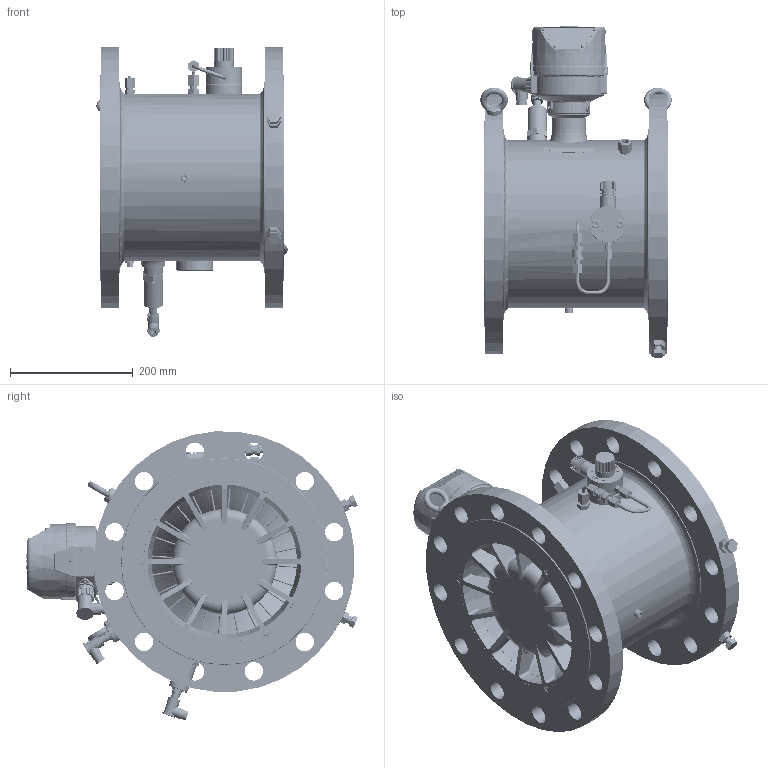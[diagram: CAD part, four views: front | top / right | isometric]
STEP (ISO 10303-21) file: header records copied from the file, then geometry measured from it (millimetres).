
FILE_DESCRIPTION((''),'2;1');
FILE_NAME('063825_1_L_ASM','2022-08-23T15:06:42',('R17397'),(''),'CREO PARAMETRIC BY PTC INC, 2020281','CREO PARAMETRIC BY PTC INC, 2020281','');
FILE_SCHEMA(('AP242_MANAGED_MODEL_BASED_3D_ENGINEERING_MIM_LF { 1 0 10303 442 1 1 4 }'));
Products named in the file (260): 063676_1_ROHR_ROH_AF0; RST37-2_10038; 063676_1_FLANSCH_ROH_AF1; 063676_1_FLANSCH_ROH_AF0; 062903_4_V00_AF0; 056772_4_AF0; PTC_SYSTEM_MTRL_PROPS; 056772_4; 063676_1_RUNDNAHT_1_AF0; 063676_1_RUNDNAHT_2_AF0; 063676_1_STUTZENNAHT_ZAHLWERK_AF0; 063674_4_AF0; 063674_4_AF3; 063676_1_STUTZENNAHT_HF3_1_AF0; 933M12X35; 934M12; 14301_X5CRNI1810; 063676_1_STUTZENNAHT_HF3_2_AF0; 063676_1_FERTIG_ASM; 047347_2_AF1; ALU; 047346_2; 047359_4; 047360_4; 047345_1_LAGER_VORNE_MESS_DN250; 047345_1_LAGER_HINTEN_MESS_250; 046618_4; 1M5X12; STAHL_ALLGEMEIN; 046620_4; 046622_4; 84M5X6; 047345_1_GESTANZTE_RONDE; 047345_1_SCHEIBENFEDER_MESS_250; 046619_4; 046565_2; 985M12; 047358_3; O_RING_MESS_250; PE_LD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
Assembly tree (204 placements, depth 5):
  RST37-2_10038
  RST37-2_10038
  RST37-2_10038
  RST37-2_10038
  PTC_SYSTEM_MTRL_PROPS
Bounding box: 311.47 x 540.25 x 470.95 mm (x, y, z)
Volume: 10921516.3 mm3; surface area: 2538385.6 mm2
Topology: 203 solids, 286 shells, 7065 faces, 17243 edges, 10645 vertices
Faces by surface type: plane 2603, cylinder 2428, cone 719, bspline 649, torus 516, extrusion 106, sphere 44
Entity records: 309453 total; most frequent: CARTESIAN_POINT 84480, DIRECTION 28030, ORIENTED_EDGE 24868, EDGE_CURVE 12584, PROPERTY_DEFINITION 11023, AXIS2_PLACEMENT_3D 10968, REPRESENTATION 10759, PROPERTY_DEFINITION_REPRESENTATION 10759
